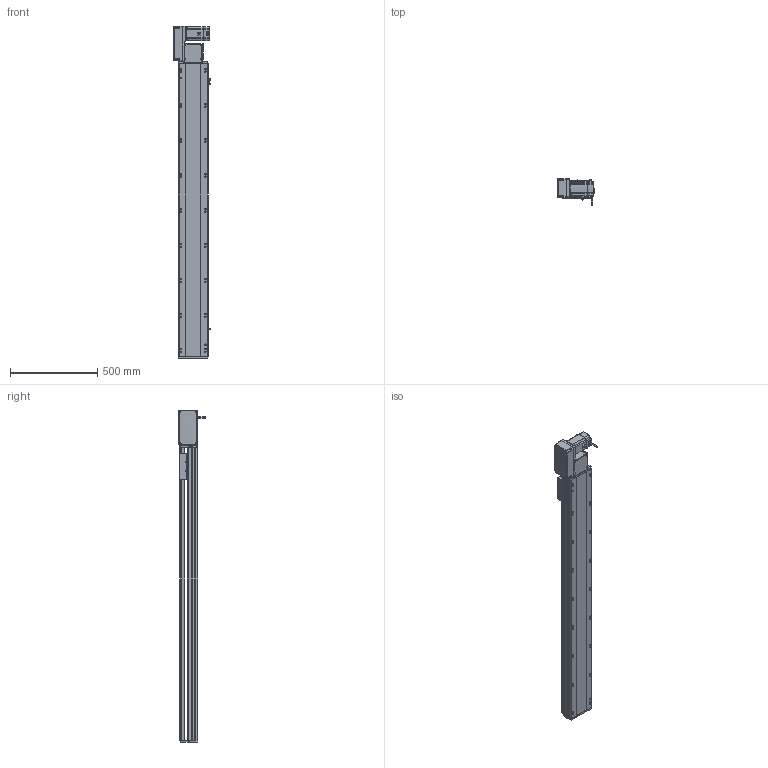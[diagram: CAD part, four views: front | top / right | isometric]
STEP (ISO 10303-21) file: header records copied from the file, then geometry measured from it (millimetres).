
FILE_DESCRIPTION (( 'STEP AP214' ), '1' );
FILE_NAME ('RTB17S-XX-1400-L-M75-C4.STEP', '2025-12-12T00:15:24', ( '' ), ( '' ), 'SwSTEP 2.0', 'SolidWorks 2018', '' );
FILE_SCHEMA (( 'AUTOMOTIVE_DESIGN' ));
Length unit declared in the file: millimetre
Products named in the file (15): RTB22S-GY-018P^RTB17S-L-々湍釱蚾饜-750W_RTB17S-XX-XX-L-M75-C4; EE672^RTB17S-XX-XX-L-M75-C4; RTB17S-L-004-賑釱^RTB17S-賑釱_RTB17S-XX-XX-L-M75-C4; RTB17S-XX-1400-L-M75-C4; RMP17S-L-014-T20-P75--々湍釱^RTB17S-L-々湍釱蚾饜-750W_RTB17S-XX-XX-L-M75-C4; RTB17S-L-007奻裔^RTB17S-XX-XX-L-M75-C4; RTB17S-L-々湍釱蚾饜-750W^RTB17S-XX-XX-L-M75-C4; RTB22S-GY-008-M75--萇儂啣^RTB17S-L-々湍釱蚾饜-750W_RTB17S-XX-XX-L-M75-C4; RTB17-R-011菁釱^RTB17S-XX-XX-L-M75-C4; RTB17S-賑釱^RTB17S-XX-XX-L-M75-C4; RTH13-BL-012覜茼え俋离^RTB17S-賑釱_RTB17S-XX-XX-L-M75-C4; RTB22S-GY-017P^RTB17S-L-々湍釱蚾饜-750W_RTB17S-XX-XX-L-M75-C4; RTB22S-GY-005P^RTB17S-L-々湍釱蚾饜-750W_RTB17S-XX-XX-L-M75-C4; 750W萇儂^RTB17S-XX-XX-L-M75-C4; RTB17S-L-001-耜醱啣^RTB17S-XX-XX-L-M75-C4
Assembly tree (17 placements, depth 3):
  RTB17S-XX-1400-L-M75-C4
    RTB17-R-011菁釱^RTB17S-XX-XX-L-M75-C4
    EE672^RTB17S-XX-XX-L-M75-C4  x3
    RTB17S-L-001-耜醱啣^RTB17S-XX-XX-L-M75-C4
    RTB17S-賑釱^RTB17S-XX-XX-L-M75-C4
      RTB17S-L-004-賑釱^RTB17S-賑釱_RTB17S-XX-XX-L-M75-C4
      RTH13-BL-012覜茼え俋离^RTB17S-賑釱_RTB17S-XX-XX-L-M75-C4
    RTB17S-L-007奻裔^RTB17S-XX-XX-L-M75-C4
    750W萇儂^RTB17S-XX-XX-L-M75-C4
    RTB17S-L-々湍釱蚾饜-750W^RTB17S-XX-XX-L-M75-C4
      RMP17S-L-014-T20-P75--々湍釱^RTB17S-L-々湍釱蚾饜-750W_RTB17S-XX-XX-L-M75-C4
      RTB22S-GY-005P^RTB17S-L-々湍釱蚾饜-750W_RTB17S-XX-XX-L-M75-C4
      RTB22S-GY-017P^RTB17S-L-々湍釱蚾饜-750W_RTB17S-XX-XX-L-M75-C4  x2
      RTB22S-GY-008-M75--萇儂啣^RTB17S-L-々湍釱蚾饜-750W_RTB17S-XX-XX-L-M75-C4
      RTB22S-GY-018P^RTB17S-L-々湍釱蚾饜-750W_RTB17S-XX-XX-L-M75-C4
Bounding box: 210.4 x 152.7 x 1899 mm (x, y, z)
Volume: 14704223.7 mm3; surface area: 2561351.4 mm2
Topology: 17 solids, 17 shells, 2121 faces, 5890 edges, 3806 vertices
Faces by surface type: plane 974, cylinder 731, bspline 294, cone 110, sphere 8, torus 4
Entity records: 59638 total; most frequent: CARTESIAN_POINT 17554, ORIENTED_EDGE 8624, DIRECTION 8042, EDGE_CURVE 4312, AXIS2_PLACEMENT_3D 2826, VERTEX_POINT 2810, LINE 2390, VECTOR 2390
